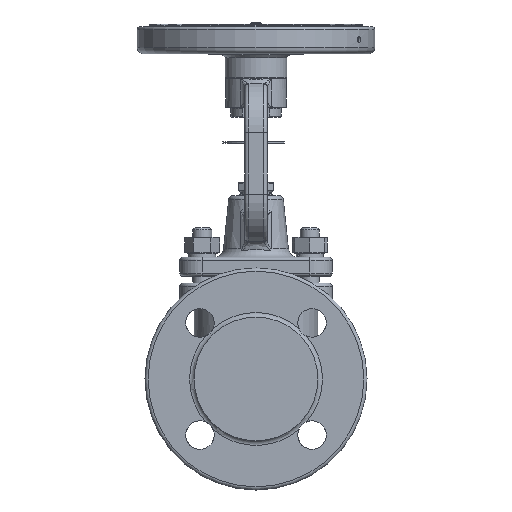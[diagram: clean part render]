
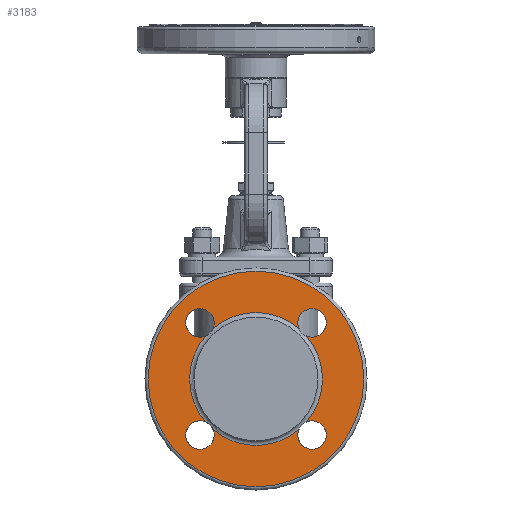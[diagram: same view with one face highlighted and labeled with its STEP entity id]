
A CAD part, front view. The second image highlights one B-rep face of the part: STEP entity #3183.
In plain terms, the highlighted planar face has unit normal (0, -1, 0).
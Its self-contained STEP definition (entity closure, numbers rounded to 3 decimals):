
#1764=PLANE('',#12847);
#3183=ADVANCED_FACE('',(#4154,#4155),#1764,.F.);
#4154=FACE_BOUND('',#4492,.T.);
#4155=FACE_BOUND('',#4493,.T.);
#4492=EDGE_LOOP('',(#5576));
#4493=EDGE_LOOP('',(#5577,#5578,#5579,#5580,#5581,#5582,#5583,#5584));
#5576=ORIENTED_EDGE('',*,*,#10391,.T.);
#5577=ORIENTED_EDGE('',*,*,#10392,.F.);
#5578=ORIENTED_EDGE('',*,*,#10393,.T.);
#5579=ORIENTED_EDGE('',*,*,#10394,.T.);
#5580=ORIENTED_EDGE('',*,*,#10395,.T.);
#5581=ORIENTED_EDGE('',*,*,#10396,.F.);
#5582=ORIENTED_EDGE('',*,*,#10397,.T.);
#5583=ORIENTED_EDGE('',*,*,#10398,.T.);
#5584=ORIENTED_EDGE('',*,*,#10399,.T.);
#9207=VERTEX_POINT('',#20197);
#9208=VERTEX_POINT('',#20199);
#9209=VERTEX_POINT('',#20200);
#9210=VERTEX_POINT('',#20202);
#9211=VERTEX_POINT('',#20204);
#9212=VERTEX_POINT('',#20206);
#9213=VERTEX_POINT('',#20208);
#9214=VERTEX_POINT('',#20210);
#9215=VERTEX_POINT('',#20212);
#10391=EDGE_CURVE('',#9207,#9207,#12168,.T.);
#10392=EDGE_CURVE('',#9208,#9209,#12169,.T.);
#10393=EDGE_CURVE('',#9208,#9210,#12170,.T.);
#10394=EDGE_CURVE('',#9210,#9211,#12171,.T.);
#10395=EDGE_CURVE('',#9211,#9212,#12172,.T.);
#10396=EDGE_CURVE('',#9213,#9212,#12173,.T.);
#10397=EDGE_CURVE('',#9213,#9214,#12174,.T.);
#10398=EDGE_CURVE('',#9214,#9215,#12175,.T.);
#10399=EDGE_CURVE('',#9215,#9209,#12176,.T.);
#12168=CIRCLE('',#12838,68.);
#12169=CIRCLE('',#12839,9.);
#12170=CIRCLE('',#12840,41.828);
#12171=CIRCLE('',#12841,9.);
#12172=CIRCLE('',#12842,41.828);
#12173=CIRCLE('',#12843,9.);
#12174=CIRCLE('',#12844,41.828);
#12175=CIRCLE('',#12845,9.);
#12176=CIRCLE('',#12846,41.828);
#12838=AXIS2_PLACEMENT_3D('',#20196,#14288,#14289);
#12839=AXIS2_PLACEMENT_3D('',#20198,#14290,#14291);
#12840=AXIS2_PLACEMENT_3D('',#20201,#14292,#14293);
#12841=AXIS2_PLACEMENT_3D('',#20203,#14294,#14295);
#12842=AXIS2_PLACEMENT_3D('',#20205,#14296,#14297);
#12843=AXIS2_PLACEMENT_3D('',#20207,#14298,#14299);
#12844=AXIS2_PLACEMENT_3D('',#20209,#14300,#14301);
#12845=AXIS2_PLACEMENT_3D('',#20211,#14302,#14303);
#12846=AXIS2_PLACEMENT_3D('',#20213,#14304,#14305);
#12847=AXIS2_PLACEMENT_3D('',#20214,#14306,#14307);
#14288=DIRECTION('',(0.,-1.,0.));
#14289=DIRECTION('',(-1.,0.,0.));
#14290=DIRECTION('',(0.,-1.,0.));
#14291=DIRECTION('',(-1.,0.,0.));
#14292=DIRECTION('',(0.,1.,0.));
#14293=DIRECTION('',(-1.,0.,0.));
#14294=DIRECTION('',(0.,1.,0.));
#14295=DIRECTION('',(-1.,0.,0.));
#14296=DIRECTION('',(0.,1.,0.));
#14297=DIRECTION('',(-1.,0.,0.));
#14298=DIRECTION('',(0.,-1.,0.));
#14299=DIRECTION('',(-1.,0.,0.));
#14300=DIRECTION('',(0.,1.,0.));
#14301=DIRECTION('',(-1.,0.,0.));
#14302=DIRECTION('',(0.,1.,0.));
#14303=DIRECTION('',(-1.,0.,0.));
#14304=DIRECTION('',(0.,1.,0.));
#14305=DIRECTION('',(-1.,0.,0.));
#14306=DIRECTION('',(0.,1.,0.));
#14307=DIRECTION('',(-1.,0.,0.));
#20196=CARTESIAN_POINT('',(0.,-88.,0.));
#20197=CARTESIAN_POINT('',(-68.,-88.,0.));
#20198=CARTESIAN_POINT('',(-35.355,-88.,35.355));
#20199=CARTESIAN_POINT('',(-27.039,-88.,31.914));
#20200=CARTESIAN_POINT('',(-31.914,-88.,27.039));
#20201=CARTESIAN_POINT('',(0.,-88.,0.));
#20202=CARTESIAN_POINT('',(27.039,-88.,31.914));
#20203=CARTESIAN_POINT('',(35.355,-88.,35.355));
#20204=CARTESIAN_POINT('',(31.914,-88.,27.039));
#20205=CARTESIAN_POINT('',(0.,-88.,0.));
#20206=CARTESIAN_POINT('',(31.914,-88.,-27.039));
#20207=CARTESIAN_POINT('',(35.355,-88.,-35.355));
#20208=CARTESIAN_POINT('',(27.039,-88.,-31.914));
#20209=CARTESIAN_POINT('',(0.,-88.,0.));
#20210=CARTESIAN_POINT('',(-27.039,-88.,-31.914));
#20211=CARTESIAN_POINT('',(-35.355,-88.,-35.355));
#20212=CARTESIAN_POINT('',(-31.914,-88.,-27.039));
#20213=CARTESIAN_POINT('',(0.,-88.,0.));
#20214=CARTESIAN_POINT('',(0.,-88.,39.));
